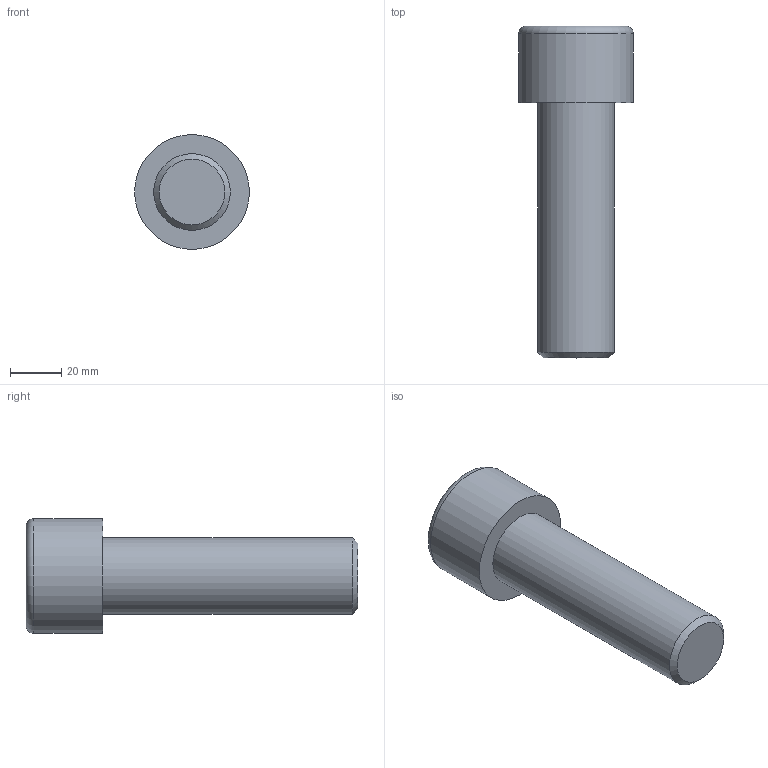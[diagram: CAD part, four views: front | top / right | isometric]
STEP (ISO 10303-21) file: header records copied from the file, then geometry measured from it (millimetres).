
FILE_DESCRIPTION(/* description */ (''),/* implementation_level */ '2;1');
FILE_NAME(/* name */ 'C:\Users\D\Documents\Inventor\各種小物\JIS\JIS B 1176 六角穴付きボルト\M30x100.stp',/* time_stamp */ '2022-05-09T19:01:54+09:00',/* author */ ('D'),/* organization */ (''),/* preprocessor_version */ 'ST-DEVELOPER v18',/* originating_system */ 'Autodesk Inventor 2020',/* authorisation */ '');
FILE_SCHEMA (('AUTOMOTIVE_DESIGN { 1 0 10303 214 3 1 1 }'));
Length unit declared in the file: millimetre
Products named in the file (1): M1.6x2.5
Bounding box: 45 x 130 x 45 mm (x, y, z)
Volume: 110224.5 mm3; surface area: 17831.3 mm2
Topology: 1 solids, 1 shells, 14 faces, 33 edges, 22 vertices
Faces by surface type: plane 9, cone 2, cylinder 2, torus 1
Full cylindrical faces by diameter (mm): 30 x1, 45 x1
Entity records: 435 total; most frequent: CARTESIAN_POINT 83, ORIENTED_EDGE 64, DIRECTION 64, EDGE_CURVE 32, AXIS2_PLACEMENT_3D 24, VERTEX_POINT 22, EDGE_LOOP 16, LINE 16
